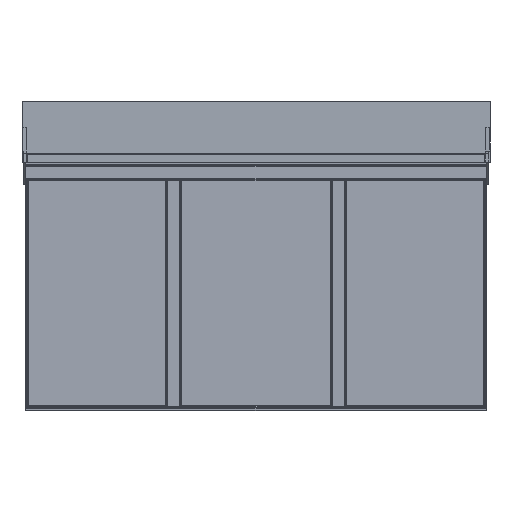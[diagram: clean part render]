
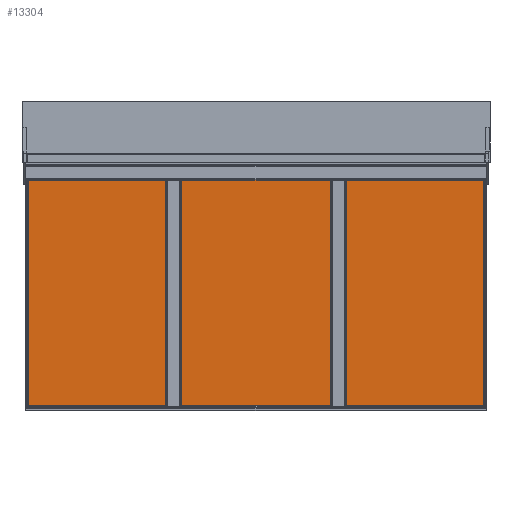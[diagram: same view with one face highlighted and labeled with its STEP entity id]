
A CAD part, front view. The second image highlights one B-rep face of the part: STEP entity #13304.
In plain terms, the highlighted planar face has unit normal (0, -1, -0.011) as drawn and (0, -1, 0) by its records, which use the part's own axes.
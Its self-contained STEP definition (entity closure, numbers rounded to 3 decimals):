
#95 = VECTOR ( 'NONE', #14642, 1000. ) ;
#291 = CARTESIAN_POINT ( 'NONE',  ( -137.5, -1., -296. ) ) ;
#520 = CARTESIAN_POINT ( 'NONE',  ( -138., -1., 296. ) ) ;
#527 = LINE ( 'NONE', #291, #18038 ) ;
#604 = CARTESIAN_POINT ( 'NONE',  ( -137.5, -1., -296.5 ) ) ;
#785 = VECTOR ( 'NONE', #5811, 1000. ) ;
#840 = CARTESIAN_POINT ( 'NONE',  ( -138., -1., -298.5 ) ) ;
#928 = VERTEX_POINT ( 'NONE', #12655 ) ;
#1111 = CARTESIAN_POINT ( 'NONE',  ( -137.5, -1., 296.5 ) ) ;
#1178 = EDGE_CURVE ( 'NONE', #10811, #11253, #14370, .T. ) ;
#1245 = VECTOR ( 'NONE', #20124, 1000. ) ;
#1491 = ORIENTED_EDGE ( 'NONE', *, *, #10956, .F. ) ;
#1984 = EDGE_CURVE ( 'NONE', #14102, #14659, #11812, .T. ) ;
#2271 = CARTESIAN_POINT ( 'NONE',  ( 158.5, -1., 298.5 ) ) ;
#2319 = ORIENTED_EDGE ( 'NONE', *, *, #9960, .F. ) ;
#2527 = EDGE_CURVE ( 'NONE', #11253, #15844, #19211, .T. ) ;
#3166 = LINE ( 'NONE', #13247, #95 ) ;
#3214 = ORIENTED_EDGE ( 'NONE', *, *, #13690, .F. ) ;
#3263 = VECTOR ( 'NONE', #14888, 1000. ) ;
#3432 = LINE ( 'NONE', #2271, #8978 ) ;
#3712 = CARTESIAN_POINT ( 'NONE',  ( 157.499, -1., -296.5 ) ) ;
#3744 = CARTESIAN_POINT ( 'NONE',  ( -137.5, -1., -296.5 ) ) ;
#3764 = LINE ( 'NONE', #11932, #1245 ) ;
#3931 = ORIENTED_EDGE ( 'NONE', *, *, #2527, .F. ) ;
#5563 = VECTOR ( 'NONE', #18808, 1000. ) ;
#5566 = LINE ( 'NONE', #520, #17971 ) ;
#5739 = PLANE ( 'NONE',  #6593 ) ;
#5811 = DIRECTION ( 'NONE',  ( 1., 0., 0. ) ) ;
#5966 = ORIENTED_EDGE ( 'NONE', *, *, #11086, .F. ) ;
#6048 = EDGE_CURVE ( 'NONE', #928, #20564, #3764, .T. ) ;
#6122 = ORIENTED_EDGE ( 'NONE', *, *, #6159, .F. ) ;
#6126 = DIRECTION ( 'NONE',  ( 0., 0., -1. ) ) ;
#6159 = EDGE_CURVE ( 'NONE', #14659, #6272, #527, .T. ) ;
#6169 = CARTESIAN_POINT ( 'NONE',  ( -137.5, -1., -296. ) ) ;
#6272 = VERTEX_POINT ( 'NONE', #13610 ) ;
#6593 = AXIS2_PLACEMENT_3D ( 'NONE', #20561, #10758, #20465 ) ;
#6676 = ORIENTED_EDGE ( 'NONE', *, *, #1984, .F. ) ;
#7082 = DIRECTION ( 'NONE',  ( 1., 0., 0. ) ) ;
#7713 = DIRECTION ( 'NONE',  ( 0., 0., 1. ) ) ;
#8170 = DIRECTION ( 'NONE',  ( 0., 0., 1. ) ) ;
#8575 = EDGE_CURVE ( 'NONE', #6272, #9924, #17492, .T. ) ;
#8616 = VERTEX_POINT ( 'NONE', #18736 ) ;
#8962 = CARTESIAN_POINT ( 'NONE',  ( -137.5, -1., 296. ) ) ;
#8978 = VECTOR ( 'NONE', #16651, 1000. ) ;
#9347 = CARTESIAN_POINT ( 'NONE',  ( -138., -1., 296. ) ) ;
#9625 = EDGE_LOOP ( 'NONE', ( #3214, #11138, #17625, #12048, #6122, #6676, #5966, #3931, #13562, #2319, #1491, #15341 ) ) ;
#9924 = VERTEX_POINT ( 'NONE', #840 ) ;
#9960 = EDGE_CURVE ( 'NONE', #15151, #10811, #13923, .T. ) ;
#10264 = DIRECTION ( 'NONE',  ( -1., 0., 0. ) ) ;
#10758 = DIRECTION ( 'NONE',  ( 0., -1., 0. ) ) ;
#10811 = VERTEX_POINT ( 'NONE', #1111 ) ;
#10956 = EDGE_CURVE ( 'NONE', #20564, #15151, #5566, .T. ) ;
#11086 = EDGE_CURVE ( 'NONE', #15844, #14102, #11988, .T. ) ;
#11138 = ORIENTED_EDGE ( 'NONE', *, *, #14877, .F. ) ;
#11253 = VERTEX_POINT ( 'NONE', #16469 ) ;
#11774 = VECTOR ( 'NONE', #7713, 1000. ) ;
#11812 = LINE ( 'NONE', #3744, #5563 ) ;
#11871 = VERTEX_POINT ( 'NONE', #13448 ) ;
#11932 = CARTESIAN_POINT ( 'NONE',  ( -138., -1., 298.5 ) ) ;
#11988 = LINE ( 'NONE', #3712, #13158 ) ;
#12048 = ORIENTED_EDGE ( 'NONE', *, *, #8575, .F. ) ;
#12655 = CARTESIAN_POINT ( 'NONE',  ( -138., -1., 298.5 ) ) ;
#13158 = VECTOR ( 'NONE', #10264, 1000. ) ;
#13247 = CARTESIAN_POINT ( 'NONE',  ( 158.5, -1., -298.5 ) ) ;
#13304 = ADVANCED_FACE ( 'NONE', ( #19156 ), #5739, .T. ) ;
#13392 = DIRECTION ( 'NONE',  ( -1., 0., 0. ) ) ;
#13448 = CARTESIAN_POINT ( 'NONE',  ( -156.5, -1., 298.5 ) ) ;
#13562 = ORIENTED_EDGE ( 'NONE', *, *, #1178, .F. ) ;
#13610 = CARTESIAN_POINT ( 'NONE',  ( -138., -1., -296. ) ) ;
#13690 = EDGE_CURVE ( 'NONE', #11871, #928, #3432, .T. ) ;
#13923 = LINE ( 'NONE', #8962, #11774 ) ;
#14102 = VERTEX_POINT ( 'NONE', #604 ) ;
#14153 = CARTESIAN_POINT ( 'NONE',  ( -138., -1., -296. ) ) ;
#14370 = LINE ( 'NONE', #15878, #785 ) ;
#14393 = EDGE_CURVE ( 'NONE', #9924, #8616, #3166, .T. ) ;
#14615 = CARTESIAN_POINT ( 'NONE',  ( -156.5, -1., -298.5 ) ) ;
#14642 = DIRECTION ( 'NONE',  ( -1., 0., 0. ) ) ;
#14659 = VERTEX_POINT ( 'NONE', #6169 ) ;
#14877 = EDGE_CURVE ( 'NONE', #8616, #11871, #18141, .T. ) ;
#14888 = DIRECTION ( 'NONE',  ( 0., 0., -1. ) ) ;
#15151 = VERTEX_POINT ( 'NONE', #17302 ) ;
#15158 = CARTESIAN_POINT ( 'NONE',  ( 156.5, -1., -296.5 ) ) ;
#15341 = ORIENTED_EDGE ( 'NONE', *, *, #6048, .F. ) ;
#15844 = VERTEX_POINT ( 'NONE', #15158 ) ;
#15878 = CARTESIAN_POINT ( 'NONE',  ( -137.5, -1., 296.5 ) ) ;
#16469 = CARTESIAN_POINT ( 'NONE',  ( 156.5, -1., 296.5 ) ) ;
#16651 = DIRECTION ( 'NONE',  ( 1., 0., 0. ) ) ;
#17302 = CARTESIAN_POINT ( 'NONE',  ( -137.5, -1., 296. ) ) ;
#17492 = LINE ( 'NONE', #14153, #3263 ) ;
#17625 = ORIENTED_EDGE ( 'NONE', *, *, #14393, .F. ) ;
#17914 = VECTOR ( 'NONE', #6126, 1000. ) ;
#17971 = VECTOR ( 'NONE', #7082, 1000. ) ;
#18038 = VECTOR ( 'NONE', #13392, 1000. ) ;
#18141 = LINE ( 'NONE', #14615, #18997 ) ;
#18736 = CARTESIAN_POINT ( 'NONE',  ( -156.5, -1., -298.5 ) ) ;
#18808 = DIRECTION ( 'NONE',  ( 0., 0., 1. ) ) ;
#18997 = VECTOR ( 'NONE', #8170, 1000. ) ;
#19156 = FACE_OUTER_BOUND ( 'NONE', #9625, .T. ) ;
#19211 = LINE ( 'NONE', #19441, #17914 ) ;
#19441 = CARTESIAN_POINT ( 'NONE',  ( 156.5, -1., 297.499 ) ) ;
#20124 = DIRECTION ( 'NONE',  ( 0., 0., -1. ) ) ;
#20465 = DIRECTION ( 'NONE',  ( 0., 0., -1. ) ) ;
#20561 = CARTESIAN_POINT ( 'NONE',  ( 0., -1., 0. ) ) ;
#20564 = VERTEX_POINT ( 'NONE', #9347 ) ;
